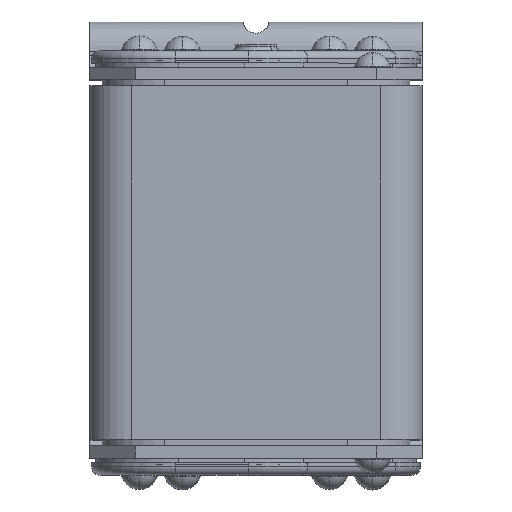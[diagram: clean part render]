
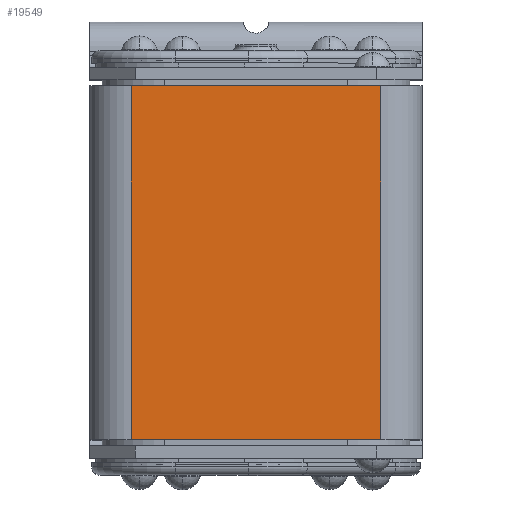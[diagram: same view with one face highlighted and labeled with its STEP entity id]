
A CAD part, top view. The second image highlights one B-rep face of the part: STEP entity #19549.
In plain terms, the highlighted planar face has unit normal (0, 0, 1).
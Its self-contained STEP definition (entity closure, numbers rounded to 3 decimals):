
#463 = VERTEX_POINT ( 'NONE', #10422 ) ;
#963 = EDGE_CURVE ( 'NONE', #8068, #4592, #19942, .T. ) ;
#1132 = DIRECTION ( 'NONE',  ( 0., 1., 0. ) ) ;
#1394 = EDGE_CURVE ( 'NONE', #10591, #463, #6616, .T. ) ;
#1615 = CARTESIAN_POINT ( 'NONE',  ( 30., -42.5, 40. ) ) ;
#2292 = VECTOR ( 'NONE', #1132, 1000. ) ;
#3865 = ORIENTED_EDGE ( 'NONE', *, *, #13829, .F. ) ;
#3886 = LINE ( 'NONE', #6797, #20677 ) ;
#4162 = EDGE_LOOP ( 'NONE', ( #7439, #17108, #3865, #15679 ) ) ;
#4592 = VERTEX_POINT ( 'NONE', #11294 ) ;
#4669 = CARTESIAN_POINT ( 'NONE',  ( 30., -42.5, 40. ) ) ;
#5657 = CARTESIAN_POINT ( 'NONE',  ( -30., -42.5, 40. ) ) ;
#6616 = LINE ( 'NONE', #8993, #2292 ) ;
#6682 = AXIS2_PLACEMENT_3D ( 'NONE', #13333, #14901, #16318 ) ;
#6797 = CARTESIAN_POINT ( 'NONE',  ( 30., -42.5, 40. ) ) ;
#7439 = ORIENTED_EDGE ( 'NONE', *, *, #17974, .T. ) ;
#7510 = FACE_OUTER_BOUND ( 'NONE', #4162, .T. ) ;
#8068 = VERTEX_POINT ( 'NONE', #4669 ) ;
#8993 = CARTESIAN_POINT ( 'NONE',  ( -30., -42.5, 40. ) ) ;
#9762 = DIRECTION ( 'NONE',  ( -1., 0., 0. ) ) ;
#9787 = DIRECTION ( 'NONE',  ( 0., 1., 0. ) ) ;
#10422 = CARTESIAN_POINT ( 'NONE',  ( -30., 42.5, 40. ) ) ;
#10591 = VERTEX_POINT ( 'NONE', #5657 ) ;
#11294 = CARTESIAN_POINT ( 'NONE',  ( 30., 42.5, 40. ) ) ;
#11439 = LINE ( 'NONE', #16109, #15965 ) ;
#12983 = PLANE ( 'NONE',  #6682 ) ;
#13333 = CARTESIAN_POINT ( 'NONE',  ( 30., -42.5, 40. ) ) ;
#13829 = EDGE_CURVE ( 'NONE', #8068, #10591, #3886, .T. ) ;
#14901 = DIRECTION ( 'NONE',  ( 0., 0., -1. ) ) ;
#15679 = ORIENTED_EDGE ( 'NONE', *, *, #963, .T. ) ;
#15965 = VECTOR ( 'NONE', #9762, 1000. ) ;
#16109 = CARTESIAN_POINT ( 'NONE',  ( 30., 42.5, 40. ) ) ;
#16318 = DIRECTION ( 'NONE',  ( 1., 0., 0. ) ) ;
#16834 = VECTOR ( 'NONE', #9787, 1000. ) ;
#17108 = ORIENTED_EDGE ( 'NONE', *, *, #1394, .F. ) ;
#17974 = EDGE_CURVE ( 'NONE', #4592, #463, #11439, .T. ) ;
#19549 = ADVANCED_FACE ( 'NONE', ( #7510 ), #12983, .F. ) ;
#19872 = DIRECTION ( 'NONE',  ( -1., 0., 0. ) ) ;
#19942 = LINE ( 'NONE', #1615, #16834 ) ;
#20677 = VECTOR ( 'NONE', #19872, 1000. ) ;
